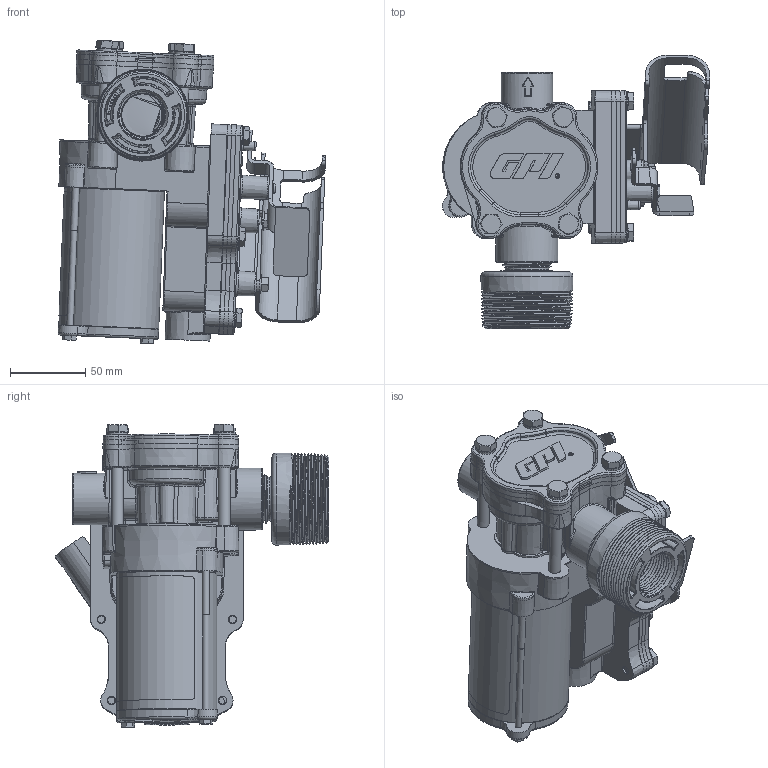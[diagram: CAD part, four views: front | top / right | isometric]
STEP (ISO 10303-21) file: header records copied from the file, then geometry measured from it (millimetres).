
FILE_DESCRIPTION(/* description */ (''),/* implementation_level */ '2;1');
FILE_NAME(/* name */ 'C:\Vault Projects\GPI Eng\New Projects\DHarris\Website model updates\STEP\EZ-8.stp',/* time_stamp */ '2022-07-18T10:39:35-05:00',/* author */ ('gdanhar'),/* organization */ (''),/* preprocessor_version */ 'ST-DEVELOPER v18.1',/* originating_system */ 'Autodesk Inventor 2022',/* authorisation */ '');
FILE_SCHEMA (('AUTOMOTIVE_DESIGN { 1 0 10303 214 3 1 1 }'));
Length unit declared in the file: inch
Products named in the file (1): EZ-8
Bounding box: 178.21 x 182.51 x 202.02 mm (x, y, z)
Volume: 1402959.4 mm3; surface area: 200132.5 mm2
Topology: 2 solids, 2 shells, 3024 faces, 7664 edges, 4827 vertices
Faces by surface type: plane 1453, bspline 745, cylinder 338, cone 285, torus 160, sphere 43
Full cylindrical faces by diameter (mm): 2.184 x2, 4.242 x2, 4.724 x2, 6.35 x1, 6.604 x1, 7.938 x4, 11.125 x6, 11.989 x6, 12.7 x6, 13.208 x4, 15.011 x1, 19.05 x1, 28.956 x1, 29.156 x1, 32.69 x1, 34.29 x1, 41.275 x1, 66.04 x1, 66.675 x1
Entity records: 122085 total; most frequent: CARTESIAN_POINT 51040, ORIENTED_EDGE 15236, DIRECTION 12082, EDGE_CURVE 7618, VERTEX_POINT 4809, LINE 4276, VECTOR 4276, AXIS2_PLACEMENT_3D 3903
